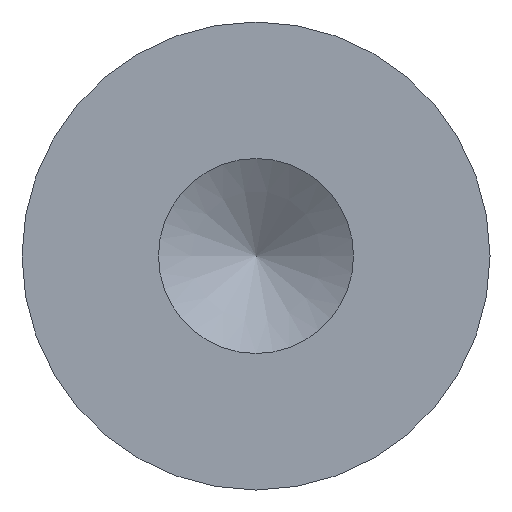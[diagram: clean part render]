
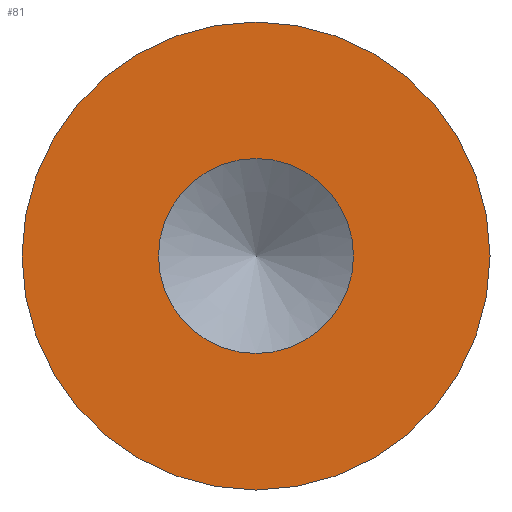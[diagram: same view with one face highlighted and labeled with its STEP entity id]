
A CAD part, front view. The second image highlights one B-rep face of the part: STEP entity #81.
In plain terms, the highlighted planar face has unit normal (0, -1, 0).
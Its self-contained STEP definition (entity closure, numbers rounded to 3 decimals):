
#15=PLANE('',#96);
#20=FACE_BOUND('',#41,.T.);
#30=FACE_OUTER_BOUND('',#40,.T.);
#40=EDGE_LOOP('',(#70));
#41=EDGE_LOOP('',(#71));
#47=CIRCLE('',#92,1.25);
#49=CIRCLE('',#95,3.);
#53=VERTEX_POINT('',#137);
#55=VERTEX_POINT('',#142);
#59=EDGE_CURVE('',#53,#53,#47,.T.);
#61=EDGE_CURVE('',#55,#55,#49,.T.);
#70=ORIENTED_EDGE('',*,*,#61,.T.);
#71=ORIENTED_EDGE('',*,*,#59,.T.);
#81=ADVANCED_FACE('',(#30,#20),#15,.F.);
#92=AXIS2_PLACEMENT_3D('',#138,#114,#115);
#95=AXIS2_PLACEMENT_3D('',#143,#120,#121);
#96=AXIS2_PLACEMENT_3D('',#144,#122,#123);
#114=DIRECTION('center_axis',(0.,1.,0.));
#115=DIRECTION('ref_axis',(1.,0.,0.));
#120=DIRECTION('center_axis',(0.,-1.,0.));
#121=DIRECTION('ref_axis',(1.,0.,0.));
#122=DIRECTION('center_axis',(0.,1.,0.));
#123=DIRECTION('ref_axis',(0.,0.,1.));
#137=CARTESIAN_POINT('',(1.25,0.,0.));
#138=CARTESIAN_POINT('Origin',(0.,0.,0.));
#142=CARTESIAN_POINT('',(-3.,0.,0.));
#143=CARTESIAN_POINT('Origin',(0.,0.,0.));
#144=CARTESIAN_POINT('Origin',(0.,0.,0.));
